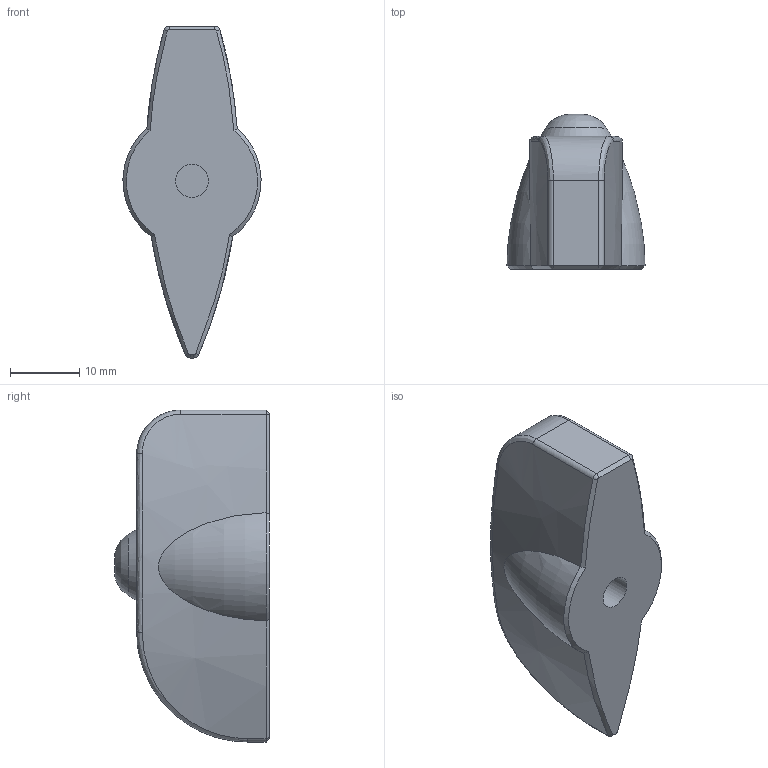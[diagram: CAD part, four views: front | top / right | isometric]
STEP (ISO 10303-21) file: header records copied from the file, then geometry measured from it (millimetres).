
FILE_DESCRIPTION(('FreeCAD Model'),'2;1');
FILE_NAME('Open CASCADE Shape Model','2023-05-06T18:44:57',('Author'),( ''),'Open CASCADE STEP processor 7.5','FreeCAD','Unknown');
FILE_SCHEMA(('AUTOMOTIVE_DESIGN { 1 0 10303 214 1 1 1 1 }'));
Length unit declared in the file: millimetre
Products named in the file (1): handle switcher_01320
Bounding box: 19.98 x 22.4 x 48 mm (x, y, z)
Volume: 9771.6 mm3; surface area: 3227.5 mm2
Topology: 1 solids, 1 shells, 37 faces, 88 edges, 55 vertices
Faces by surface type: bspline 12, plane 8, cylinder 7, cone 6, torus 4
Full cylindrical faces by diameter (mm): 4.8 x1
Entity records: 1785 total; most frequent: CARTESIAN_POINT 1028, ORIENTED_EDGE 166, DIRECTION 122, EDGE_CURVE 83, VERTEX_POINT 53, AXIS2_PLACEMENT_3D 51, EDGE_LOOP 42, FACE_OUTER_BOUND 40
